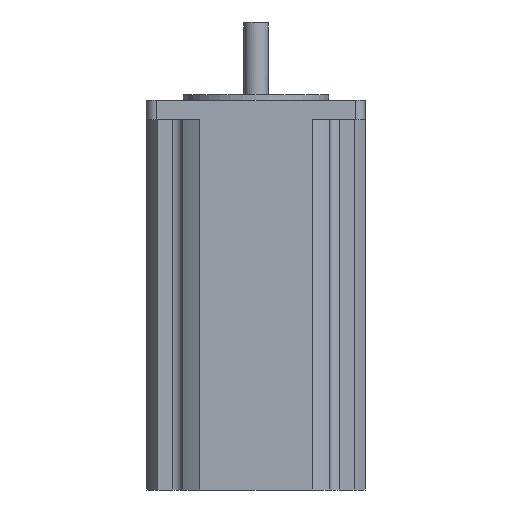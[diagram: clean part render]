
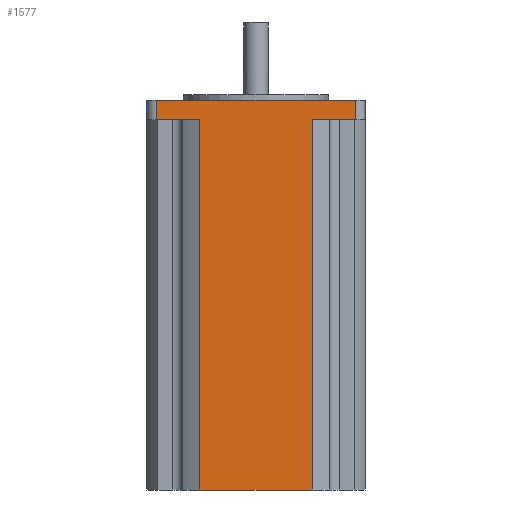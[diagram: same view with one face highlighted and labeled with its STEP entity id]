
A CAD part, front view. The second image highlights one B-rep face of the part: STEP entity #1577.
In plain terms, the highlighted planar face has unit normal (0, -1, 0).
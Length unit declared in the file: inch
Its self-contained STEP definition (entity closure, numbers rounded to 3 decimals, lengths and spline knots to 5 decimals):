
#505=CARTESIAN_POINT('',(0.57845,-1.125,0.0));
#506=VERTEX_POINT('',#505);
#507=CARTESIAN_POINT('',(0.57845,-1.125,3.82));
#508=VERTEX_POINT('',#507);
#509=CARTESIAN_POINT('',(0.57845,-1.125,0.0));
#510=DIRECTION('',(0.0,0.0,1.0));
#511=VECTOR('',#510,3.82);
#512=LINE('',#509,#511);
#513=EDGE_CURVE('',#506,#508,#512,.T.);
#673=CARTESIAN_POINT('',(-0.57845,-1.125,3.82));
#674=VERTEX_POINT('',#673);
#675=CARTESIAN_POINT('',(-0.57845,-1.125,0.0));
#676=VERTEX_POINT('',#675);
#677=CARTESIAN_POINT('',(-0.57845,-1.125,3.82));
#678=DIRECTION('',(0.0,0.0,-1.0));
#679=VECTOR('',#678,3.82);
#680=LINE('',#677,#679);
#681=EDGE_CURVE('',#674,#676,#680,.T.);
#746=CARTESIAN_POINT('',(-1.025,-1.125,3.82));
#747=VERTEX_POINT('',#746);
#748=CARTESIAN_POINT('',(-1.025,-1.125,3.82));
#749=DIRECTION('',(1.0,0.0,0.0));
#750=VECTOR('',#749,0.44655);
#751=LINE('',#748,#750);
#752=EDGE_CURVE('',#747,#674,#751,.T.);
#1025=CARTESIAN_POINT('',(-0.57845,-1.125,0.0));
#1026=DIRECTION('',(1.0,0.0,0.0));
#1027=VECTOR('',#1026,1.15689);
#1028=LINE('',#1025,#1027);
#1029=EDGE_CURVE('',#676,#506,#1028,.T.);
#1270=CARTESIAN_POINT('',(1.025,-1.125,3.82));
#1271=VERTEX_POINT('',#1270);
#1279=CARTESIAN_POINT('',(0.57845,-1.125,3.82));
#1280=DIRECTION('',(1.0,0.0,0.0));
#1281=VECTOR('',#1280,0.44655);
#1282=LINE('',#1279,#1281);
#1283=EDGE_CURVE('',#508,#1271,#1282,.T.);
#1532=CARTESIAN_POINT('',(1.025,-1.125,4.02));
#1533=VERTEX_POINT('',#1532);
#1541=CARTESIAN_POINT('',(1.025,-1.125,3.82));
#1542=DIRECTION('',(0.0,0.0,1.0));
#1543=VECTOR('',#1542,0.2);
#1544=LINE('',#1541,#1543);
#1545=EDGE_CURVE('',#1271,#1533,#1544,.T.);
#1550=CARTESIAN_POINT('',(1.025,-1.125,0.0));
#1551=DIRECTION('',(0.0,-1.0,0.0));
#1552=DIRECTION('',(0.0,0.0,-1.0));
#1553=AXIS2_PLACEMENT_3D('',#1550,#1551,#1552);
#1554=PLANE('',#1553);
#1555=ORIENTED_EDGE('',*,*,#681,.T.);
#1556=ORIENTED_EDGE('',*,*,#1029,.T.);
#1557=ORIENTED_EDGE('',*,*,#513,.T.);
#1558=ORIENTED_EDGE('',*,*,#1283,.T.);
#1559=ORIENTED_EDGE('',*,*,#1545,.T.);
#1560=CARTESIAN_POINT('',(-1.025,-1.125,4.02));
#1561=VERTEX_POINT('',#1560);
#1562=CARTESIAN_POINT('',(1.025,-1.125,4.02));
#1563=DIRECTION('',(-1.0,0.0,0.0));
#1564=VECTOR('',#1563,2.05);
#1565=LINE('',#1562,#1564);
#1566=EDGE_CURVE('',#1533,#1561,#1565,.T.);
#1567=ORIENTED_EDGE('',*,*,#1566,.T.);
#1568=CARTESIAN_POINT('',(-1.025,-1.125,3.82));
#1569=DIRECTION('',(0.0,0.0,1.0));
#1570=VECTOR('',#1569,0.2);
#1571=LINE('',#1568,#1570);
#1572=EDGE_CURVE('',#747,#1561,#1571,.T.);
#1573=ORIENTED_EDGE('',*,*,#1572,.F.);
#1574=ORIENTED_EDGE('',*,*,#752,.T.);
#1575=EDGE_LOOP('',(#1555,#1556,#1557,#1558,#1559,#1567,#1573,#1574));
#1576=FACE_OUTER_BOUND('',#1575,.T.);
#1577=ADVANCED_FACE('',(#1576),#1554,.T.);
